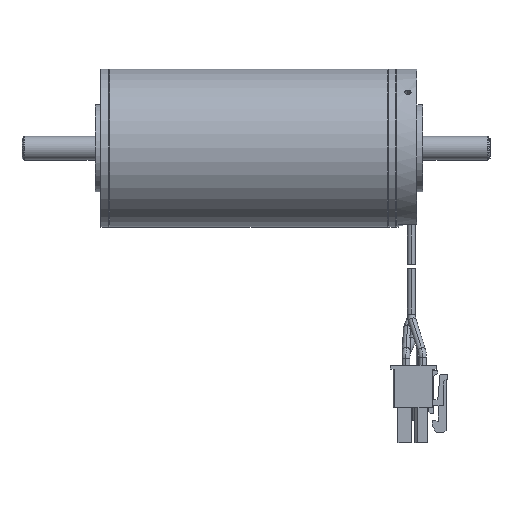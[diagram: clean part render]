
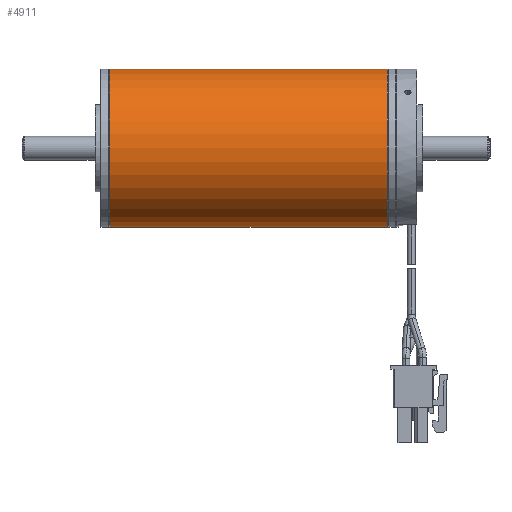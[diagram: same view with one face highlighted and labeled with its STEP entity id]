
A CAD part, top view. The second image highlights one B-rep face of the part: STEP entity #4911.
In plain terms, the highlighted cylindrical face has radius 20 mm (diameter 40 mm), a partial arc.
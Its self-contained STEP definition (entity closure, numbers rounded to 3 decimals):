
#1005=CARTESIAN_POINT('',(2.2,0.,0.));
#1006=DIRECTION('',(-1.,0.,0.));
#1007=DIRECTION('',(0.,-1.,0.));
#1008=AXIS2_PLACEMENT_3D('',#1005,#1006,#1007);
#1013=DIRECTION('',(-1.,0.,0.));
#1014=VECTOR('',#1013,70.3);
#1015=CARTESIAN_POINT('',(72.5,20.,0.));
#1016=LINE('',#1015,#1014);
#1020=CARTESIAN_POINT('',(72.5,0.,0.));
#1021=DIRECTION('',(-1.,0.,0.));
#1022=DIRECTION('',(0.,-1.,0.));
#1023=AXIS2_PLACEMENT_3D('',#1020,#1021,#1022);
#1028=DIRECTION('',(-1.,0.,0.));
#1029=VECTOR('',#1028,70.3);
#1030=CARTESIAN_POINT('',(72.5,-20.,0.));
#1031=LINE('',#1030,#1029);
#3771=CARTESIAN_POINT('',(2.2,20.,0.));
#3772=CARTESIAN_POINT('',(2.2,-20.,0.));
#3773=VERTEX_POINT('',#3771);
#3774=VERTEX_POINT('',#3772);
#4007=CARTESIAN_POINT('',(72.5,20.,0.));
#4008=CARTESIAN_POINT('',(72.5,-20.,0.));
#4009=VERTEX_POINT('',#4007);
#4010=VERTEX_POINT('',#4008);
#4899=CARTESIAN_POINT('',(104.425,0.,0.));
#4900=DIRECTION('',(-1.,0.,0.));
#4901=DIRECTION('',(0.,1.,0.));
#4902=AXIS2_PLACEMENT_3D('',#4899,#4900,#4901);
#4903=CYLINDRICAL_SURFACE('',#4902,20.);
#4904=ORIENTED_EDGE('',*,*,#4890,.T.);
#4905=ORIENTED_EDGE('',*,*,#4865,.F.);
#4907=ORIENTED_EDGE('',*,*,#4906,.F.);
#4908=ORIENTED_EDGE('',*,*,#4862,.T.);
#4909=EDGE_LOOP('',(#4904,#4905,#4907,#4908));
#4910=FACE_OUTER_BOUND('',#4909,.F.);
#4911=ADVANCED_FACE('',(#4910),#4903,.T.);
#1009=CIRCLE('',#1008,20.);
#1024=CIRCLE('',#1023,20.);
#4862=EDGE_CURVE('',#4010,#3774,#1031,.T.);
#4865=EDGE_CURVE('',#4009,#3773,#1016,.T.);
#4890=EDGE_CURVE('',#3774,#3773,#1009,.T.);
#4906=EDGE_CURVE('',#4010,#4009,#1024,.T.);
